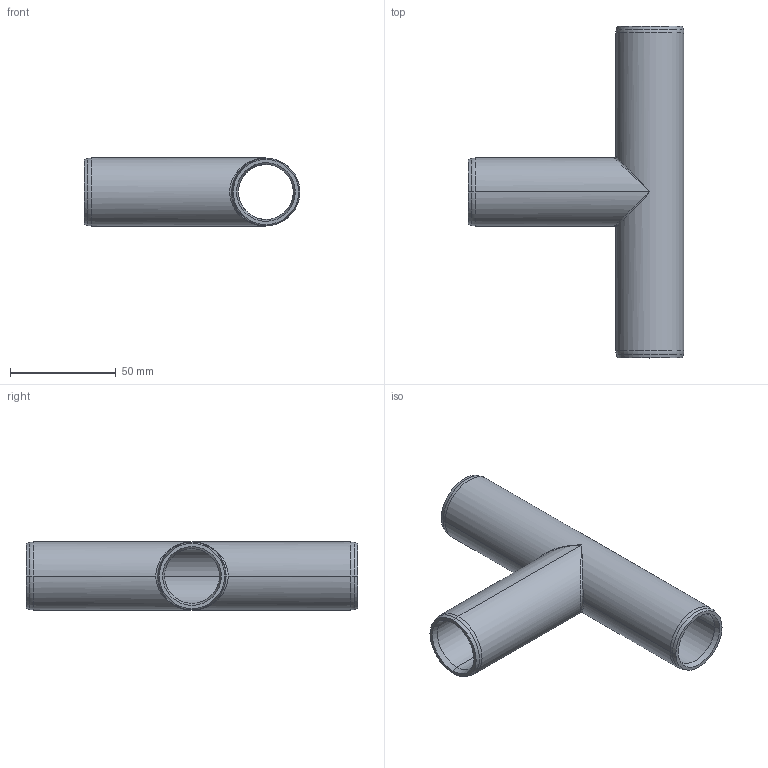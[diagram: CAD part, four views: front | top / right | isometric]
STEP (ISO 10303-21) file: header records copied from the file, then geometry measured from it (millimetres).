
FILE_DESCRIPTION (( 'STEP AP214' ), '1' );
FILE_NAME ('KP 8-32FC.STEP', '2022-04-27T05:19:24', ( '' ), ( '' ), 'SwSTEP 2.0', 'SolidWorks 2022', '' );
FILE_SCHEMA (( 'AUTOMOTIVE_DESIGN' ));
Length unit declared in the file: millimetre
Products named in the file (1): KP 8-32FC
Bounding box: 102.1 x 157 x 32.2 mm (x, y, z)
Volume: 63537.2 mm3; surface area: 41454.5 mm2
Topology: 1 solids, 1 shells, 31 faces, 72 edges, 38 vertices
Faces by surface type: cone 12, cylinder 8, torus 6, plane 3, bspline 2
Entity records: 1419 total; most frequent: CARTESIAN_POINT 370, DIRECTION 154, ORIENTED_EDGE 136, EDGE_CURVE 68, AXIS2_PLACEMENT_3D 66, VERTEX_POINT 38, CIRCLE 36, UNCERTAINTY_MEASURE_WITH_UNIT 34
